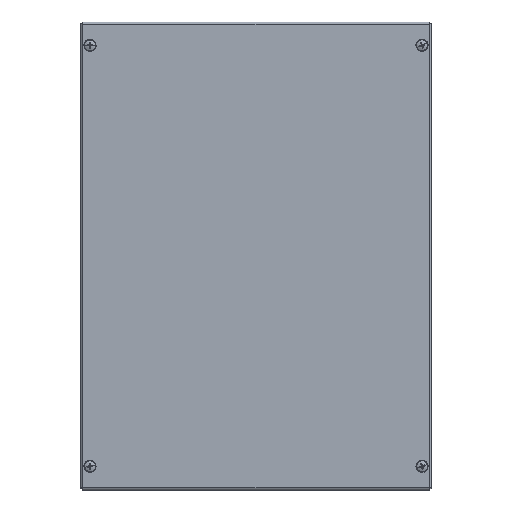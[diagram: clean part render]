
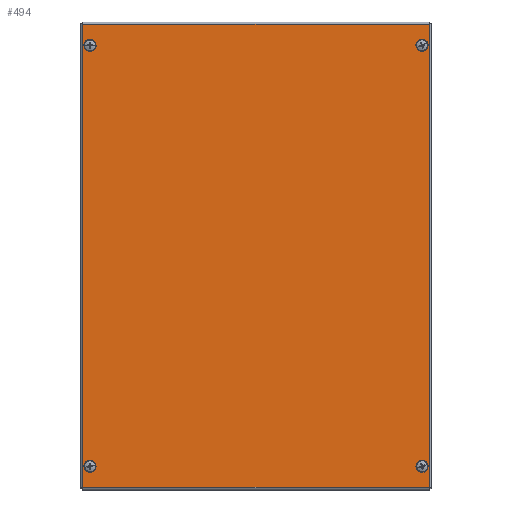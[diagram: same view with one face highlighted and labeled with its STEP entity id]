
A CAD part, top view. The second image highlights one B-rep face of the part: STEP entity #494.
In plain terms, the highlighted planar face has unit normal (0, 0, 1) as drawn and (0, 0, -1) by its records, which use the part's own axes.
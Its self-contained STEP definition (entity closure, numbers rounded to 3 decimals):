
#120 = VERTEX_POINT ( 'NONE', #11601 ) ;
#146 = AXIS2_PLACEMENT_3D ( 'NONE', #15270, #6864, #932 ) ;
#494 = ADVANCED_FACE ( 'NONE', ( #10717, #5024, #1073, #10329, #11854 ), #15623, .F. ) ;
#596 = CARTESIAN_POINT ( 'NONE',  ( -142., -180., -1.2 ) ) ;
#614 = EDGE_CURVE ( 'NONE', #11401, #8310, #4444, .T. ) ;
#666 = CIRCLE ( 'NONE', #146, 4. ) ;
#918 = CARTESIAN_POINT ( 'NONE',  ( 148.063, 198.063, -1.2 ) ) ;
#932 = DIRECTION ( 'NONE',  ( 1., 0., 0. ) ) ;
#1038 = AXIS2_PLACEMENT_3D ( 'NONE', #14420, #7227, #1375 ) ;
#1073 = FACE_BOUND ( 'NONE', #2322, .T. ) ;
#1148 = CARTESIAN_POINT ( 'NONE',  ( -148.063, 198.063, -1.2 ) ) ;
#1178 = DIRECTION ( 'NONE',  ( 1., 0., 0. ) ) ;
#1325 = CARTESIAN_POINT ( 'NONE',  ( 142., 180., -1.2 ) ) ;
#1359 = ORIENTED_EDGE ( 'NONE', *, *, #1807, .T. ) ;
#1375 = DIRECTION ( 'NONE',  ( 1., 0., 0. ) ) ;
#1492 = CARTESIAN_POINT ( 'NONE',  ( 142., 180., -1.2 ) ) ;
#1607 = DIRECTION ( 'NONE',  ( 1., 0., 0. ) ) ;
#1675 = VERTEX_POINT ( 'NONE', #5578 ) ;
#1800 = ORIENTED_EDGE ( 'NONE', *, *, #4377, .T. ) ;
#1807 = EDGE_CURVE ( 'NONE', #7540, #120, #14475, .T. ) ;
#2014 = CARTESIAN_POINT ( 'NONE',  ( 148.063, 198.093, -1.2 ) ) ;
#2099 = CARTESIAN_POINT ( 'NONE',  ( -138., 180., -1.2 ) ) ;
#2322 = EDGE_LOOP ( 'NONE', ( #10820, #15303 ) ) ;
#2482 = ORIENTED_EDGE ( 'NONE', *, *, #3758, .T. ) ;
#2598 = CARTESIAN_POINT ( 'NONE',  ( -148.063, -198.093, -1.2 ) ) ;
#2608 = ORIENTED_EDGE ( 'NONE', *, *, #5462, .T. ) ;
#2616 = CARTESIAN_POINT ( 'NONE',  ( 138., -180., -1.2 ) ) ;
#2711 = DIRECTION ( 'NONE',  ( 0., 0., 1. ) ) ;
#2845 = CARTESIAN_POINT ( 'NONE',  ( 138., 180., -1.2 ) ) ;
#3115 = EDGE_CURVE ( 'NONE', #1675, #5657, #666, .T. ) ;
#3286 = AXIS2_PLACEMENT_3D ( 'NONE', #1325, #3502, #9726 ) ;
#3502 = DIRECTION ( 'NONE',  ( 0., 0., 1. ) ) ;
#3758 = EDGE_CURVE ( 'NONE', #8912, #11401, #4022, .T. ) ;
#3784 = EDGE_LOOP ( 'NONE', ( #1800, #10034 ) ) ;
#4022 = LINE ( 'NONE', #9115, #15341 ) ;
#4159 = VERTEX_POINT ( 'NONE', #2099 ) ;
#4377 = EDGE_CURVE ( 'NONE', #4159, #10554, #5487, .T. ) ;
#4444 = LINE ( 'NONE', #2598, #14657 ) ;
#4802 = EDGE_CURVE ( 'NONE', #7170, #9868, #9666, .T. ) ;
#4859 = EDGE_CURVE ( 'NONE', #8310, #15565, #14763, .T. ) ;
#5024 = FACE_BOUND ( 'NONE', #6246, .T. ) ;
#5404 = DIRECTION ( 'NONE',  ( 1., 0., 0. ) ) ;
#5462 = EDGE_CURVE ( 'NONE', #120, #7540, #13565, .T. ) ;
#5482 = DIRECTION ( 'NONE',  ( -1., 0., 0. ) ) ;
#5487 = CIRCLE ( 'NONE', #10886, 4. ) ;
#5578 = CARTESIAN_POINT ( 'NONE',  ( -138., -180., -1.2 ) ) ;
#5635 = LINE ( 'NONE', #2014, #10204 ) ;
#5657 = VERTEX_POINT ( 'NONE', #13112 ) ;
#5835 = EDGE_CURVE ( 'NONE', #5657, #1675, #9777, .T. ) ;
#6016 = CARTESIAN_POINT ( 'NONE',  ( -148.093, 198.063, -1.2 ) ) ;
#6064 = VECTOR ( 'NONE', #1607, 1000. ) ;
#6246 = EDGE_LOOP ( 'NONE', ( #2608, #1359 ) ) ;
#6277 = CARTESIAN_POINT ( 'NONE',  ( 142., -180., -1.2 ) ) ;
#6745 = EDGE_LOOP ( 'NONE', ( #12746, #11998 ) ) ;
#6785 = CARTESIAN_POINT ( 'NONE',  ( -142., 180., -1.2 ) ) ;
#6809 = AXIS2_PLACEMENT_3D ( 'NONE', #6277, #2711, #9999 ) ;
#6864 = DIRECTION ( 'NONE',  ( 0., 0., 1. ) ) ;
#7170 = VERTEX_POINT ( 'NONE', #12226 ) ;
#7227 = DIRECTION ( 'NONE',  ( 0., 0., 1. ) ) ;
#7392 = DIRECTION ( 'NONE',  ( 0., 0., 1. ) ) ;
#7512 = DIRECTION ( 'NONE',  ( 0., 0., 1. ) ) ;
#7540 = VERTEX_POINT ( 'NONE', #2616 ) ;
#7851 = DIRECTION ( 'NONE',  ( 0., 0., 1. ) ) ;
#7961 = EDGE_CURVE ( 'NONE', #9868, #7170, #12950, .T. ) ;
#8106 = CARTESIAN_POINT ( 'NONE',  ( 148.063, -198.063, -1.2 ) ) ;
#8288 = CARTESIAN_POINT ( 'NONE',  ( 0., 0., -1.2 ) ) ;
#8310 = VERTEX_POINT ( 'NONE', #1148 ) ;
#8738 = CARTESIAN_POINT ( 'NONE',  ( -142., 180., -1.2 ) ) ;
#8912 = VERTEX_POINT ( 'NONE', #8106 ) ;
#8967 = AXIS2_PLACEMENT_3D ( 'NONE', #596, #7851, #5404 ) ;
#9115 = CARTESIAN_POINT ( 'NONE',  ( 148.093, -198.063, -1.2 ) ) ;
#9393 = ORIENTED_EDGE ( 'NONE', *, *, #15462, .T. ) ;
#9500 = AXIS2_PLACEMENT_3D ( 'NONE', #8288, #13118, #1178 ) ;
#9666 = CIRCLE ( 'NONE', #3286, 4. ) ;
#9726 = DIRECTION ( 'NONE',  ( 1., 0., 0. ) ) ;
#9777 = CIRCLE ( 'NONE', #8967, 4. ) ;
#9868 = VERTEX_POINT ( 'NONE', #2845 ) ;
#9999 = DIRECTION ( 'NONE',  ( 1., 0., 0. ) ) ;
#10034 = ORIENTED_EDGE ( 'NONE', *, *, #10159, .T. ) ;
#10159 = EDGE_CURVE ( 'NONE', #10554, #4159, #11214, .T. ) ;
#10200 = DIRECTION ( 'NONE',  ( 1., 0., 0. ) ) ;
#10204 = VECTOR ( 'NONE', #14096, 1000. ) ;
#10329 = FACE_BOUND ( 'NONE', #3784, .T. ) ;
#10554 = VERTEX_POINT ( 'NONE', #11985 ) ;
#10717 = FACE_BOUND ( 'NONE', #6745, .T. ) ;
#10820 = ORIENTED_EDGE ( 'NONE', *, *, #4802, .T. ) ;
#10886 = AXIS2_PLACEMENT_3D ( 'NONE', #8738, #7512, #13547 ) ;
#11214 = CIRCLE ( 'NONE', #12656, 4. ) ;
#11401 = VERTEX_POINT ( 'NONE', #13886 ) ;
#11601 = CARTESIAN_POINT ( 'NONE',  ( 146., -180., -1.2 ) ) ;
#11745 = ORIENTED_EDGE ( 'NONE', *, *, #614, .T. ) ;
#11819 = AXIS2_PLACEMENT_3D ( 'NONE', #1492, #7392, #10200 ) ;
#11854 = FACE_OUTER_BOUND ( 'NONE', #14564, .T. ) ;
#11985 = CARTESIAN_POINT ( 'NONE',  ( -146., 180., -1.2 ) ) ;
#11998 = ORIENTED_EDGE ( 'NONE', *, *, #5835, .T. ) ;
#12226 = CARTESIAN_POINT ( 'NONE',  ( 146., 180., -1.2 ) ) ;
#12656 = AXIS2_PLACEMENT_3D ( 'NONE', #6785, #15244, #12948 ) ;
#12746 = ORIENTED_EDGE ( 'NONE', *, *, #3115, .T. ) ;
#12948 = DIRECTION ( 'NONE',  ( 1., 0., 0. ) ) ;
#12950 = CIRCLE ( 'NONE', #11819, 4. ) ;
#13112 = CARTESIAN_POINT ( 'NONE',  ( -146., -180., -1.2 ) ) ;
#13118 = DIRECTION ( 'NONE',  ( 0., 0., 1. ) ) ;
#13547 = DIRECTION ( 'NONE',  ( 1., 0., 0. ) ) ;
#13565 = CIRCLE ( 'NONE', #6809, 4. ) ;
#13886 = CARTESIAN_POINT ( 'NONE',  ( -148.063, -198.063, -1.2 ) ) ;
#13892 = ORIENTED_EDGE ( 'NONE', *, *, #4859, .T. ) ;
#14096 = DIRECTION ( 'NONE',  ( 0., -1., 0. ) ) ;
#14420 = CARTESIAN_POINT ( 'NONE',  ( 142., -180., -1.2 ) ) ;
#14475 = CIRCLE ( 'NONE', #1038, 4. ) ;
#14528 = DIRECTION ( 'NONE',  ( 0., 1., 0. ) ) ;
#14564 = EDGE_LOOP ( 'NONE', ( #11745, #13892, #9393, #2482 ) ) ;
#14657 = VECTOR ( 'NONE', #14528, 1000. ) ;
#14763 = LINE ( 'NONE', #6016, #6064 ) ;
#15244 = DIRECTION ( 'NONE',  ( 0., 0., 1. ) ) ;
#15270 = CARTESIAN_POINT ( 'NONE',  ( -142., -180., -1.2 ) ) ;
#15303 = ORIENTED_EDGE ( 'NONE', *, *, #7961, .T. ) ;
#15341 = VECTOR ( 'NONE', #5482, 1000. ) ;
#15462 = EDGE_CURVE ( 'NONE', #15565, #8912, #5635, .T. ) ;
#15565 = VERTEX_POINT ( 'NONE', #918 ) ;
#15623 = PLANE ( 'NONE',  #9500 ) ;
